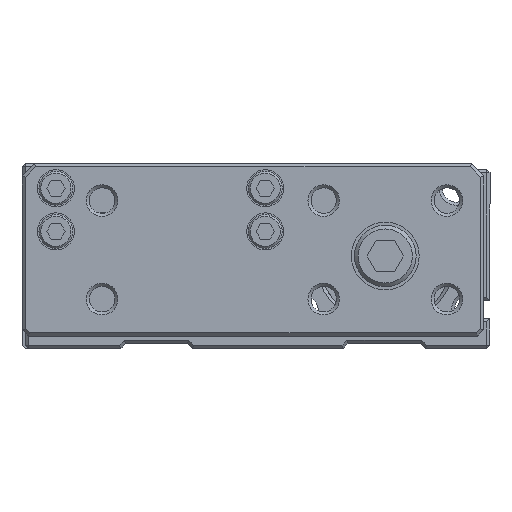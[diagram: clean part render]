
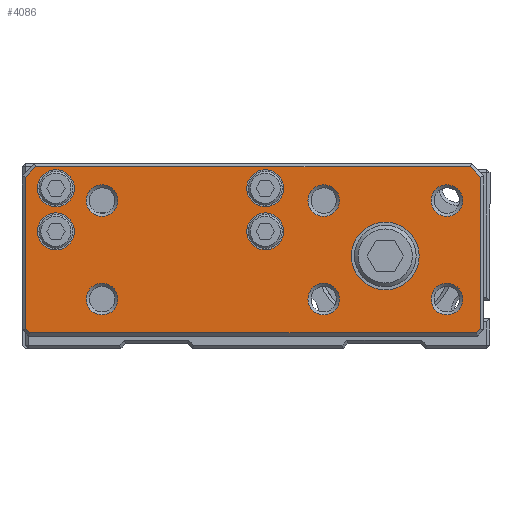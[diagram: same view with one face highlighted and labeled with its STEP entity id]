
A CAD part, front view. The second image highlights one B-rep face of the part: STEP entity #4086.
In plain terms, the highlighted planar face has unit normal (0, -1, 0).
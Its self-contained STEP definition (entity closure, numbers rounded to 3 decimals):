
#3890=CARTESIAN_POINT('',(-7.433,-13.8,9.0));
#3891=VERTEX_POINT('',#3890);
#3892=CARTESIAN_POINT('',(-10.,-13.8,9.0));
#3893=DIRECTION('',(0.0,-1.0,0.0));
#3894=DIRECTION('',(-1.0,0.0,0.0));
#3895=AXIS2_PLACEMENT_3D('',#3892,#3893,#3894);
#3896=CIRCLE('',#3895,2.567);
#3897=EDGE_CURVE('',#3891,#3891,#3896,.T.);
#3902=CARTESIAN_POINT('',(-59.0,-13.8,15.0));
#3903=DIRECTION('',(0.0,-1.0,0.0));
#3904=DIRECTION('',(0.0,0.0,-1.0));
#3905=AXIS2_PLACEMENT_3D('',#3902,#3903,#3904);
#3906=PLANE('',#3905);
#3907=CARTESIAN_POINT('',(15.5,-13.8,12.793));
#3908=VERTEX_POINT('',#3907);
#3909=CARTESIAN_POINT('',(15.5,-13.8,-11.793));
#3910=VERTEX_POINT('',#3909);
#3911=CARTESIAN_POINT('',(15.5,-13.8,12.793));
#3912=DIRECTION('',(0.0,0.0,-1.0));
#3913=VECTOR('',#3912,24.586);
#3914=LINE('',#3911,#3913);
#3915=EDGE_CURVE('',#3908,#3910,#3914,.T.);
#3916=ORIENTED_EDGE('',*,*,#3915,.F.);
#3917=CARTESIAN_POINT('',(13.793,-13.8,14.5));
#3918=VERTEX_POINT('',#3917);
#3919=CARTESIAN_POINT('',(13.793,-13.8,14.5));
#3920=DIRECTION('',(0.707,0.0,-0.707));
#3921=VECTOR('',#3920,2.414);
#3922=LINE('',#3919,#3921);
#3923=EDGE_CURVE('',#3918,#3908,#3922,.T.);
#3924=ORIENTED_EDGE('',*,*,#3923,.F.);
#3925=CARTESIAN_POINT('',(-56.793,-13.8,14.5));
#3926=VERTEX_POINT('',#3925);
#3927=CARTESIAN_POINT('',(-56.793,-13.8,14.5));
#3928=DIRECTION('',(1.0,0.0,0.0));
#3929=VECTOR('',#3928,70.586);
#3930=LINE('',#3927,#3929);
#3931=EDGE_CURVE('',#3926,#3918,#3930,.T.);
#3932=ORIENTED_EDGE('',*,*,#3931,.F.);
#3933=CARTESIAN_POINT('',(-58.5,-13.8,12.793));
#3934=VERTEX_POINT('',#3933);
#3935=CARTESIAN_POINT('',(-58.5,-13.8,12.793));
#3936=DIRECTION('',(0.707,0.0,0.707));
#3937=VECTOR('',#3936,2.414);
#3938=LINE('',#3935,#3937);
#3939=EDGE_CURVE('',#3934,#3926,#3938,.T.);
#3940=ORIENTED_EDGE('',*,*,#3939,.F.);
#3941=CARTESIAN_POINT('',(-58.5,-13.8,-11.793));
#3942=VERTEX_POINT('',#3941);
#3943=CARTESIAN_POINT('',(-58.5,-13.8,-11.793));
#3944=DIRECTION('',(0.0,0.0,1.0));
#3945=VECTOR('',#3944,24.586);
#3946=LINE('',#3943,#3945);
#3947=EDGE_CURVE('',#3942,#3934,#3946,.T.);
#3948=ORIENTED_EDGE('',*,*,#3947,.F.);
#3949=CARTESIAN_POINT('',(-57.793,-13.8,-12.5));
#3950=VERTEX_POINT('',#3949);
#3951=CARTESIAN_POINT('',(-57.793,-13.8,-12.5));
#3952=DIRECTION('',(-0.707,0.0,0.707));
#3953=VECTOR('',#3952,1.);
#3954=LINE('',#3951,#3953);
#3955=EDGE_CURVE('',#3950,#3942,#3954,.T.);
#3956=ORIENTED_EDGE('',*,*,#3955,.F.);
#3957=CARTESIAN_POINT('',(14.793,-13.8,-12.5));
#3958=VERTEX_POINT('',#3957);
#3959=CARTESIAN_POINT('',(14.793,-13.8,-12.5));
#3960=DIRECTION('',(-1.0,0.0,0.0));
#3961=VECTOR('',#3960,72.586);
#3962=LINE('',#3959,#3961);
#3963=EDGE_CURVE('',#3958,#3950,#3962,.T.);
#3964=ORIENTED_EDGE('',*,*,#3963,.F.);
#3965=CARTESIAN_POINT('',(15.5,-13.8,-11.793));
#3966=DIRECTION('',(-0.707,0.0,-0.707));
#3967=VECTOR('',#3966,1.);
#3968=LINE('',#3965,#3967);
#3969=EDGE_CURVE('',#3910,#3958,#3968,.T.);
#3970=ORIENTED_EDGE('',*,*,#3969,.F.);
#3971=EDGE_LOOP('',(#3916,#3924,#3932,#3940,#3948,#3956,#3964,#3970));
#3972=FACE_OUTER_BOUND('',#3971,.T.);
#3973=CARTESIAN_POINT('',(-7.433,-13.8,-7.));
#3974=VERTEX_POINT('',#3973);
#3975=CARTESIAN_POINT('',(-10.,-13.8,-7.));
#3976=DIRECTION('',(0.0,-1.0,0.0));
#3977=DIRECTION('',(-1.0,0.0,0.0));
#3978=AXIS2_PLACEMENT_3D('',#3975,#3976,#3977);
#3979=CIRCLE('',#3978,2.567);
#3980=EDGE_CURVE('',#3974,#3974,#3979,.T.);
#3981=ORIENTED_EDGE('',*,*,#3980,.F.);
#3982=EDGE_LOOP('',(#3981));
#3983=FACE_BOUND('',#3982,.T.);
#3984=CARTESIAN_POINT('',(12.567,-13.8,-7.));
#3985=VERTEX_POINT('',#3984);
#3986=CARTESIAN_POINT('',(10.0,-13.8,-7.));
#3987=DIRECTION('',(0.0,-1.0,0.0));
#3988=DIRECTION('',(-1.0,0.0,0.0));
#3989=AXIS2_PLACEMENT_3D('',#3986,#3987,#3988);
#3990=CIRCLE('',#3989,2.567);
#3991=EDGE_CURVE('',#3985,#3985,#3990,.T.);
#3992=ORIENTED_EDGE('',*,*,#3991,.F.);
#3993=EDGE_LOOP('',(#3992));
#3994=FACE_BOUND('',#3993,.T.);
#3995=CARTESIAN_POINT('',(12.567,-13.8,9.));
#3996=VERTEX_POINT('',#3995);
#3997=CARTESIAN_POINT('',(10.0,-13.8,9.));
#3998=DIRECTION('',(0.0,-1.0,0.0));
#3999=DIRECTION('',(-1.0,0.0,0.0));
#4000=AXIS2_PLACEMENT_3D('',#3997,#3998,#3999);
#4001=CIRCLE('',#4000,2.567);
#4002=EDGE_CURVE('',#3996,#3996,#4001,.T.);
#4003=ORIENTED_EDGE('',*,*,#4002,.F.);
#4004=EDGE_LOOP('',(#4003));
#4005=FACE_BOUND('',#4004,.T.);
#4006=CARTESIAN_POINT('',(5.5,-13.8,0.0));
#4007=VERTEX_POINT('',#4006);
#4008=CARTESIAN_POINT('',(0.,-13.8,0.0));
#4009=DIRECTION('',(0.0,1.0,0.0));
#4010=DIRECTION('',(1.0,0.0,0.0));
#4011=AXIS2_PLACEMENT_3D('',#4008,#4009,#4010);
#4012=CIRCLE('',#4011,5.5);
#4013=EDGE_CURVE('',#4007,#4007,#4012,.T.);
#4014=ORIENTED_EDGE('',*,*,#4013,.T.);
#4015=EDGE_LOOP('',(#4014));
#4016=FACE_BOUND('',#4015,.T.);
#4017=CARTESIAN_POINT('',(-50.5,-13.8,11.));
#4018=VERTEX_POINT('',#4017);
#4019=CARTESIAN_POINT('',(-53.5,-13.8,11.));
#4020=DIRECTION('',(0.0,1.0,0.0));
#4021=DIRECTION('',(1.0,0.0,0.0));
#4022=AXIS2_PLACEMENT_3D('',#4019,#4020,#4021);
#4023=CIRCLE('',#4022,3.);
#4024=EDGE_CURVE('',#4018,#4018,#4023,.T.);
#4025=ORIENTED_EDGE('',*,*,#4024,.T.);
#4026=EDGE_LOOP('',(#4025));
#4027=FACE_BOUND('',#4026,.T.);
#4028=CARTESIAN_POINT('',(-50.5,-13.8,4.));
#4029=VERTEX_POINT('',#4028);
#4030=CARTESIAN_POINT('',(-53.5,-13.8,4.));
#4031=DIRECTION('',(0.0,1.0,0.0));
#4032=DIRECTION('',(1.0,0.0,0.0));
#4033=AXIS2_PLACEMENT_3D('',#4030,#4031,#4032);
#4034=CIRCLE('',#4033,3.);
#4035=EDGE_CURVE('',#4029,#4029,#4034,.T.);
#4036=ORIENTED_EDGE('',*,*,#4035,.T.);
#4037=EDGE_LOOP('',(#4036));
#4038=FACE_BOUND('',#4037,.T.);
#4039=CARTESIAN_POINT('',(-16.5,-13.8,11.));
#4040=VERTEX_POINT('',#4039);
#4041=CARTESIAN_POINT('',(-19.5,-13.8,11.));
#4042=DIRECTION('',(0.0,1.0,0.0));
#4043=DIRECTION('',(1.0,0.0,0.0));
#4044=AXIS2_PLACEMENT_3D('',#4041,#4042,#4043);
#4045=CIRCLE('',#4044,3.);
#4046=EDGE_CURVE('',#4040,#4040,#4045,.T.);
#4047=ORIENTED_EDGE('',*,*,#4046,.T.);
#4048=EDGE_LOOP('',(#4047));
#4049=FACE_BOUND('',#4048,.T.);
#4050=CARTESIAN_POINT('',(-16.5,-13.8,4.));
#4051=VERTEX_POINT('',#4050);
#4052=CARTESIAN_POINT('',(-19.5,-13.8,4.));
#4053=DIRECTION('',(0.0,1.0,0.0));
#4054=DIRECTION('',(1.0,0.0,0.0));
#4055=AXIS2_PLACEMENT_3D('',#4052,#4053,#4054);
#4056=CIRCLE('',#4055,3.);
#4057=EDGE_CURVE('',#4051,#4051,#4056,.T.);
#4058=ORIENTED_EDGE('',*,*,#4057,.T.);
#4059=EDGE_LOOP('',(#4058));
#4060=FACE_BOUND('',#4059,.T.);
#4061=CARTESIAN_POINT('',(-43.433,-13.8,-7.));
#4062=VERTEX_POINT('',#4061);
#4063=CARTESIAN_POINT('',(-46.0,-13.8,-7.));
#4064=DIRECTION('',(0.0,-1.0,0.0));
#4065=DIRECTION('',(-1.0,0.0,0.0));
#4066=AXIS2_PLACEMENT_3D('',#4063,#4064,#4065);
#4067=CIRCLE('',#4066,2.567);
#4068=EDGE_CURVE('',#4062,#4062,#4067,.T.);
#4069=ORIENTED_EDGE('',*,*,#4068,.F.);
#4070=EDGE_LOOP('',(#4069));
#4071=FACE_BOUND('',#4070,.T.);
#4072=CARTESIAN_POINT('',(-43.433,-13.8,9.));
#4073=VERTEX_POINT('',#4072);
#4074=CARTESIAN_POINT('',(-46.,-13.8,9.));
#4075=DIRECTION('',(0.0,-1.0,0.0));
#4076=DIRECTION('',(-1.0,0.0,0.0));
#4077=AXIS2_PLACEMENT_3D('',#4074,#4075,#4076);
#4078=CIRCLE('',#4077,2.567);
#4079=EDGE_CURVE('',#4073,#4073,#4078,.T.);
#4080=ORIENTED_EDGE('',*,*,#4079,.F.);
#4081=EDGE_LOOP('',(#4080));
#4082=FACE_BOUND('',#4081,.T.);
#4083=ORIENTED_EDGE('',*,*,#3897,.F.);
#4084=EDGE_LOOP('',(#4083));
#4085=FACE_BOUND('',#4084,.T.);
#4086=ADVANCED_FACE('',(#3972,#3983,#3994,#4005,#4016,#4027,#4038,#4049,#4060,#4071,#4082,#4085),#3906,.T.);
